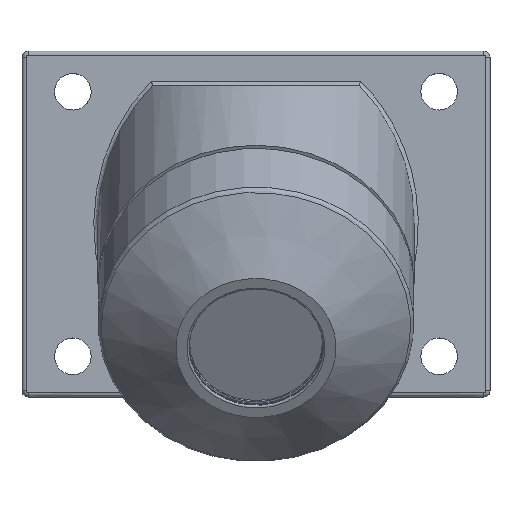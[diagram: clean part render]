
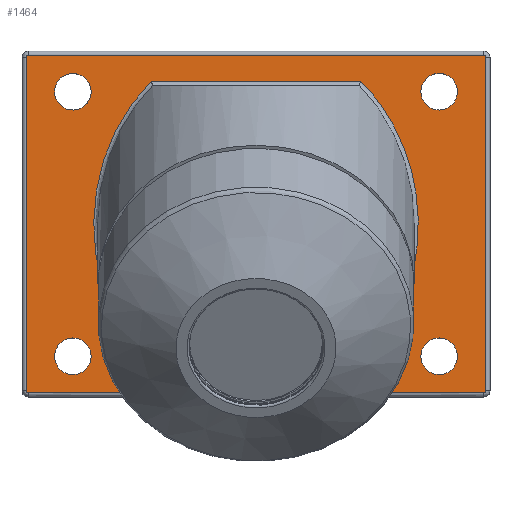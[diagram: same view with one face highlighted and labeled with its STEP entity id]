
A CAD part, top view. The second image highlights one B-rep face of the part: STEP entity #1464.
In plain terms, the highlighted planar face has unit normal (0, 0, 1).
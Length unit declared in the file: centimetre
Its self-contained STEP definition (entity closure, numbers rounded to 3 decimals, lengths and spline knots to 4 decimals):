
#14=LINE('',#2684,#38);
#15=LINE('',#2927,#39);
#16=LINE('',#2931,#40);
#17=LINE('',#2935,#41);
#18=LINE('',#2939,#42);
#19=LINE('',#2942,#43);
#38=VECTOR('',#1887,10.2975);
#39=VECTOR('',#1904,7.6877);
#40=VECTOR('',#1907,16.4);
#41=VECTOR('',#1910,22.4);
#42=VECTOR('',#1913,16.4);
#43=VECTOR('',#1916,7.6877);
#70=ELLIPSE('',#1604,9.2087,7.975);
#73=ELLIPSE('',#1611,9.2087,7.975);
#183=FACE_BOUND('',#427,.T.);
#184=FACE_BOUND('',#428,.T.);
#185=FACE_BOUND('',#429,.T.);
#186=FACE_BOUND('',#430,.T.);
#291=FACE_OUTER_BOUND('',#426,.T.);
#426=EDGE_LOOP('',(#1055,#1056,#1057,#1058,#1059,#1060,#1061,#1062,#1063,
#1064,#1065,#1066));
#427=EDGE_LOOP('',(#1067));
#428=EDGE_LOOP('',(#1068));
#429=EDGE_LOOP('',(#1069));
#430=EDGE_LOOP('',(#1070));
#599=CIRCLE('',#1614,0.1);
#600=CIRCLE('',#1615,0.1);
#601=CIRCLE('',#1616,0.1);
#602=CIRCLE('',#1617,0.1);
#603=CIRCLE('',#1618,0.9);
#604=CIRCLE('',#1619,0.9);
#605=CIRCLE('',#1620,0.9);
#606=CIRCLE('',#1621,0.9);
#711=VERTEX_POINT('',#2657);
#712=VERTEX_POINT('',#2659);
#715=VERTEX_POINT('',#2683);
#722=VERTEX_POINT('',#2845);
#723=VERTEX_POINT('',#2926);
#724=VERTEX_POINT('',#2928);
#725=VERTEX_POINT('',#2930);
#726=VERTEX_POINT('',#2932);
#727=VERTEX_POINT('',#2934);
#728=VERTEX_POINT('',#2936);
#729=VERTEX_POINT('',#2938);
#730=VERTEX_POINT('',#2940);
#731=VERTEX_POINT('',#2943);
#732=VERTEX_POINT('',#2945);
#733=VERTEX_POINT('',#2947);
#734=VERTEX_POINT('',#2949);
#844=EDGE_CURVE('',#711,#712,#70,.T.);
#848=EDGE_CURVE('',#712,#715,#14,.T.);
#860=EDGE_CURVE('',#715,#722,#73,.T.);
#862=EDGE_CURVE('',#723,#711,#15,.T.);
#863=EDGE_CURVE('',#724,#723,#599,.T.);
#864=EDGE_CURVE('',#725,#724,#16,.T.);
#865=EDGE_CURVE('',#726,#725,#600,.T.);
#866=EDGE_CURVE('',#727,#726,#17,.T.);
#867=EDGE_CURVE('',#728,#727,#601,.T.);
#868=EDGE_CURVE('',#729,#728,#18,.T.);
#869=EDGE_CURVE('',#730,#729,#602,.T.);
#870=EDGE_CURVE('',#722,#730,#19,.T.);
#871=EDGE_CURVE('',#731,#731,#603,.T.);
#872=EDGE_CURVE('',#732,#732,#604,.T.);
#873=EDGE_CURVE('',#733,#733,#605,.T.);
#874=EDGE_CURVE('',#734,#734,#606,.T.);
#1055=ORIENTED_EDGE('',*,*,#860,.F.);
#1056=ORIENTED_EDGE('',*,*,#848,.F.);
#1057=ORIENTED_EDGE('',*,*,#844,.F.);
#1058=ORIENTED_EDGE('',*,*,#862,.F.);
#1059=ORIENTED_EDGE('',*,*,#863,.F.);
#1060=ORIENTED_EDGE('',*,*,#864,.F.);
#1061=ORIENTED_EDGE('',*,*,#865,.F.);
#1062=ORIENTED_EDGE('',*,*,#866,.F.);
#1063=ORIENTED_EDGE('',*,*,#867,.F.);
#1064=ORIENTED_EDGE('',*,*,#868,.F.);
#1065=ORIENTED_EDGE('',*,*,#869,.F.);
#1066=ORIENTED_EDGE('',*,*,#870,.F.);
#1067=ORIENTED_EDGE('',*,*,#871,.T.);
#1068=ORIENTED_EDGE('',*,*,#872,.T.);
#1069=ORIENTED_EDGE('',*,*,#873,.T.);
#1070=ORIENTED_EDGE('',*,*,#874,.T.);
#1291=PLANE('',#1613);
#1464=ADVANCED_FACE('',(#291,#183,#184,#185,#186),#1291,.T.);
#1604=AXIS2_PLACEMENT_3D('',#2660,#1882,#1883);
#1611=AXIS2_PLACEMENT_3D('',#2923,#1898,#1899);
#1613=AXIS2_PLACEMENT_3D('',#2925,#1902,#1903);
#1614=AXIS2_PLACEMENT_3D('',#2929,#1905,#1906);
#1615=AXIS2_PLACEMENT_3D('',#2933,#1908,#1909);
#1616=AXIS2_PLACEMENT_3D('',#2937,#1911,#1912);
#1617=AXIS2_PLACEMENT_3D('',#2941,#1914,#1915);
#1618=AXIS2_PLACEMENT_3D('',#2944,#1917,#1918);
#1619=AXIS2_PLACEMENT_3D('',#2946,#1919,#1920);
#1620=AXIS2_PLACEMENT_3D('',#2948,#1921,#1922);
#1621=AXIS2_PLACEMENT_3D('',#2950,#1923,#1924);
#1882=DIRECTION('center_axis',(0.,0.,
1.));
#1883=DIRECTION('ref_axis',(0.,-1.,0.));
#1887=DIRECTION('',(-1.,0.,0.));
#1898=DIRECTION('center_axis',(0.,0.,
1.));
#1899=DIRECTION('ref_axis',(0.,-1.,0.));
#1902=DIRECTION('center_axis',(0.,0.,
1.));
#1903=DIRECTION('ref_axis',(-1.,0.,0.));
#1904=DIRECTION('',(-1.,0.,0.));
#1905=DIRECTION('center_axis',(0.,0.,
-1.));
#1906=DIRECTION('ref_axis',(0.707,-0.707,0.));
#1907=DIRECTION('',(0.,-1.,0.));
#1908=DIRECTION('center_axis',(0.,0.,
-1.));
#1909=DIRECTION('ref_axis',(0.707,0.707,0.));
#1910=DIRECTION('',(1.,0.,0.));
#1911=DIRECTION('center_axis',(0.,0.,
-1.));
#1912=DIRECTION('ref_axis',(-0.707,0.707,0.));
#1913=DIRECTION('',(0.,1.,0.));
#1914=DIRECTION('center_axis',(0.,0.,
-1.));
#1915=DIRECTION('ref_axis',(-0.707,-0.707,0.));
#1916=DIRECTION('',(-1.,0.,0.));
#1917=DIRECTION('center_axis',(0.,0.,
-1.));
#1918=DIRECTION('ref_axis',(1.,0.,0.));
#1919=DIRECTION('center_axis',(0.,0.,
-1.));
#1920=DIRECTION('ref_axis',(1.,0.,0.));
#1921=DIRECTION('center_axis',(0.,0.,
-1.));
#1922=DIRECTION('ref_axis',(1.,0.,0.));
#1923=DIRECTION('center_axis',(0.,0.,
-1.));
#1924=DIRECTION('ref_axis',(1.,0.,0.));
#2657=CARTESIAN_POINT('',(3.5123,-4.673,2.3));
#2659=CARTESIAN_POINT('',(5.1487,10.627,2.3));
#2660=CARTESIAN_POINT('Origin',(0.,3.5946,2.3));
#2683=CARTESIAN_POINT('',(-5.1487,10.627,2.3));
#2684=CARTESIAN_POINT('',(-4.2159,10.627,2.3));
#2845=CARTESIAN_POINT('',(-3.5123,-4.673,2.3));
#2923=CARTESIAN_POINT('Origin',(0.,3.5946,2.3));
#2925=CARTESIAN_POINT('Origin',(0.,3.627,2.3));
#2926=CARTESIAN_POINT('',(11.2,-4.673,2.3));
#2927=CARTESIAN_POINT('',(-5.75,-4.673,2.3));
#2928=CARTESIAN_POINT('',(11.3,-4.573,2.3));
#2929=CARTESIAN_POINT('Origin',(11.2,-4.573,2.3));
#2930=CARTESIAN_POINT('',(11.3,11.827,2.3));
#2931=CARTESIAN_POINT('',(11.3,-0.623,2.3));
#2932=CARTESIAN_POINT('',(11.2,11.927,2.3));
#2933=CARTESIAN_POINT('Origin',(11.2,11.827,2.3));
#2934=CARTESIAN_POINT('',(-11.2,11.927,2.3));
#2935=CARTESIAN_POINT('',(5.75,11.927,2.3));
#2936=CARTESIAN_POINT('',(-11.3,11.827,2.3));
#2937=CARTESIAN_POINT('Origin',(-11.2,11.827,2.3));
#2938=CARTESIAN_POINT('',(-11.3,-4.573,2.3));
#2939=CARTESIAN_POINT('',(-11.3,7.877,2.3));
#2940=CARTESIAN_POINT('',(-11.2,-4.673,2.3));
#2941=CARTESIAN_POINT('Origin',(-11.2,-4.573,2.3));
#2942=CARTESIAN_POINT('',(-5.75,-4.673,2.3));
#2943=CARTESIAN_POINT('',(-8.4319,10.825,2.3));
#2944=CARTESIAN_POINT('Origin',(-9.,10.127,2.3));
#2945=CARTESIAN_POINT('',(-8.1,-2.873,2.3));
#2946=CARTESIAN_POINT('Origin',(-9.,-2.873,2.3));
#2947=CARTESIAN_POINT('',(9.9,10.127,2.3));
#2948=CARTESIAN_POINT('Origin',(9.,10.127,2.3));
#2949=CARTESIAN_POINT('',(9.9,-2.873,2.3));
#2950=CARTESIAN_POINT('Origin',(9.,-2.873,2.3));
